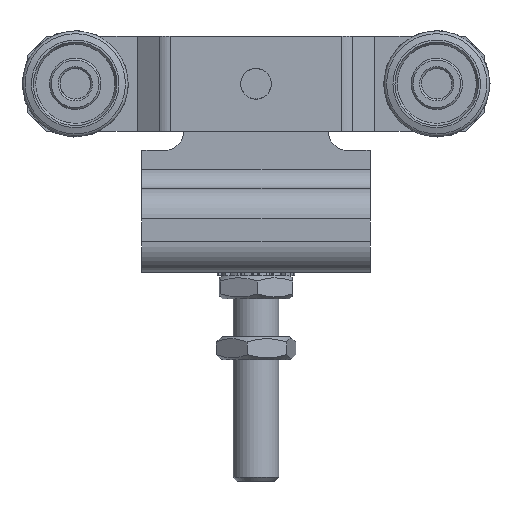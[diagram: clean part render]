
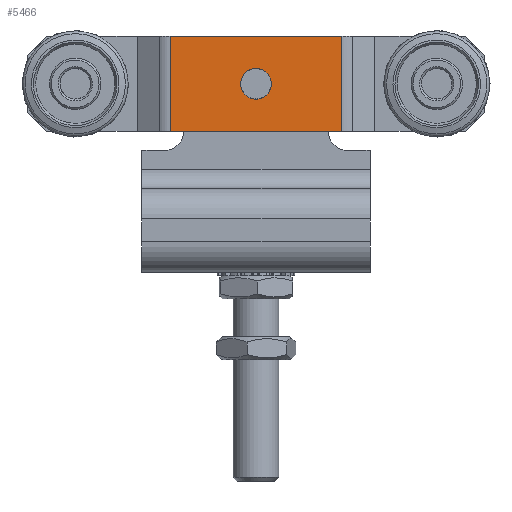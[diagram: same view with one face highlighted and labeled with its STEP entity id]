
A CAD part, left-side view. The second image highlights one B-rep face of the part: STEP entity #5466.
In plain terms, the highlighted planar face has unit normal (-1, 0, 0) as drawn and (0, 0, 1) by its records, which use the part's own axes.
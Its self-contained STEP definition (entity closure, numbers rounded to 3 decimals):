
#186=FACE_BOUND('',#707,.T.);
#383=FACE_OUTER_BOUND('',#706,.T.);
#706=EDGE_LOOP('',(#3909,#3910,#3911,#3912));
#707=EDGE_LOOP('',(#3913));
#1103=LINE('',#8640,#1587);
#1109=LINE('',#8654,#1593);
#1110=LINE('',#8656,#1594);
#1111=LINE('',#8657,#1595);
#1587=VECTOR('',#6891,10.);
#1593=VECTOR('',#6905,10.);
#1594=VECTOR('',#6906,10.);
#1595=VECTOR('',#6907,10.);
#1976=CIRCLE('',#6021,4.05);
#2329=VERTEX_POINT('',#8622);
#2332=VERTEX_POINT('',#8630);
#2339=VERTEX_POINT('',#8653);
#2340=VERTEX_POINT('',#8655);
#2341=VERTEX_POINT('',#8658);
#2925=EDGE_CURVE('',#2332,#2329,#1103,.T.);
#2932=EDGE_CURVE('',#2339,#2329,#1109,.T.);
#2933=EDGE_CURVE('',#2339,#2340,#1110,.T.);
#2934=EDGE_CURVE('',#2332,#2340,#1111,.T.);
#2935=EDGE_CURVE('',#2341,#2341,#1976,.T.);
#3909=ORIENTED_EDGE('',*,*,#2925,.T.);
#3910=ORIENTED_EDGE('',*,*,#2932,.F.);
#3911=ORIENTED_EDGE('',*,*,#2933,.T.);
#3912=ORIENTED_EDGE('',*,*,#2934,.F.);
#3913=ORIENTED_EDGE('',*,*,#2935,.T.);
#5267=PLANE('',#6020);
#5466=ADVANCED_FACE('',(#383,#186),#5267,.T.);
#6020=AXIS2_PLACEMENT_3D('',#8652,#6903,#6904);
#6021=AXIS2_PLACEMENT_3D('',#8659,#6908,#6909);
#6891=DIRECTION('',(0.,1.,0.));
#6903=DIRECTION('center_axis',(0.,0.,1.));
#6904=DIRECTION('ref_axis',(1.,0.,0.));
#6905=DIRECTION('',(1.,0.,0.));
#6906=DIRECTION('',(0.,-1.,0.));
#6907=DIRECTION('',(-1.,0.,0.));
#6908=DIRECTION('center_axis',(0.,0.,-1.));
#6909=DIRECTION('ref_axis',(-1.,0.,0.));
#8622=CARTESIAN_POINT('',(22.5,12.5,5.));
#8630=CARTESIAN_POINT('',(22.5,-12.5,5.));
#8640=CARTESIAN_POINT('',(22.5,-6.25,5.));
#8652=CARTESIAN_POINT('Origin',(27.25,0.,5.));
#8653=CARTESIAN_POINT('',(-22.5,12.5,5.));
#8654=CARTESIAN_POINT('',(55.75,12.5,5.));
#8655=CARTESIAN_POINT('',(-22.5,-12.5,5.));
#8656=CARTESIAN_POINT('',(-22.5,6.25,5.));
#8657=CARTESIAN_POINT('',(-55.75,-12.5,5.));
#8658=CARTESIAN_POINT('',(4.05,0.,5.));
#8659=CARTESIAN_POINT('Origin',(0.,0.,5.));
